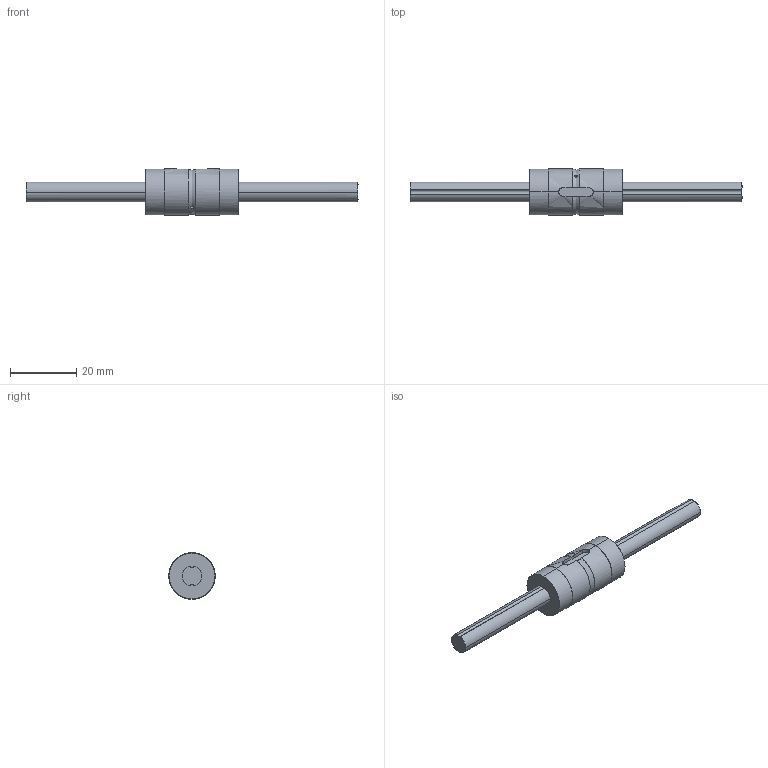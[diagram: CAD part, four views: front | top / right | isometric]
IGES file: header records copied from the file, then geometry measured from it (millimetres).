
Global section: file name: No Iges File Name specified; native system: AutoDesk Inventor R11.0; preprocessor: AutoDesk Inventor Iges Exporter R11.0; author: No Author specified; organization: No Organization specified; date: 20150223.132548; units: millimetre
Bounding box: 100 x 14 x 14 mm (x, y, z)
Surface area: 4033.4 mm2 (no closed solid volume)
Topology: 0 solids, 0 shells, 36 faces, 272 edges, 272 vertices
Faces by surface type: bspline 36
